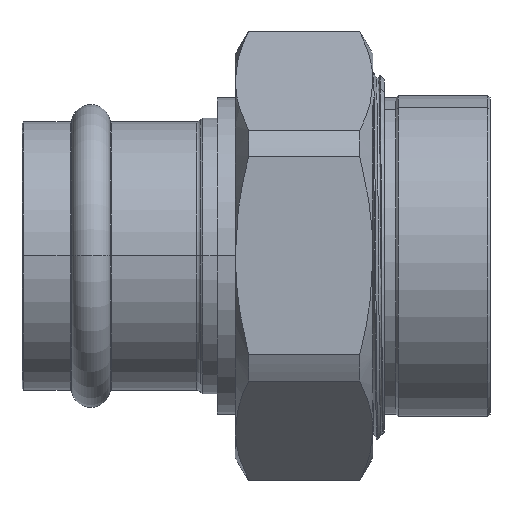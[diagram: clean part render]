
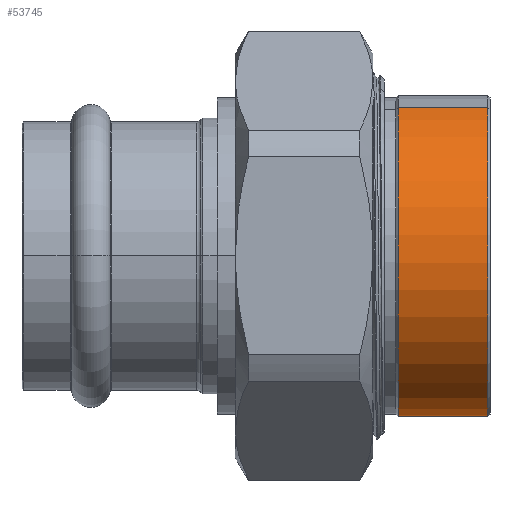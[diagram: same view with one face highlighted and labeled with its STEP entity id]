
A CAD part, top view. The second image highlights one B-rep face of the part: STEP entity #53745.
In plain terms, the highlighted cylindrical face has radius 1.379 mm (diameter 2.758 mm), a partial arc.
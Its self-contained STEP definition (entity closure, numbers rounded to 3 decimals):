
#15264 = VERTEX_POINT('',#15265);
#15265 = CARTESIAN_POINT('',(-72.789,1.275,
    -25.602));
#15279 = CONICAL_SURFACE('',#15280,2.084,0.785);
#15280 = AXIS2_PLACEMENT_3D('',#15281,#15282,#15283);
#15281 = CARTESIAN_POINT('',(-72.084,0.,-26.128));
#15282 = DIRECTION('',(1.,0.,0.));
#15283 = DIRECTION('',(0.,-0.924,-0.382));
#15292 = VERTEX_POINT('',#15293);
#15293 = CARTESIAN_POINT('',(-72.789,-1.275,
    -26.655));
#15308 = CYLINDRICAL_SURFACE('',#15309,1.379);
#15309 = AXIS2_PLACEMENT_3D('',#15310,#15311,#15312);
#15310 = CARTESIAN_POINT('',(-72.907,0.,-26.128));
#15311 = DIRECTION('',(1.,0.,0.));
#15312 = DIRECTION('',(0.,-0.924,-0.382));
#15467 = VERTEX_POINT('',#15468);
#15468 = CARTESIAN_POINT('',(-72.021,-1.275,
    -26.655));
#15482 = CONICAL_SURFACE('',#15483,1.359,0.785);
#15483 = AXIS2_PLACEMENT_3D('',#15484,#15485,#15486);
#15484 = CARTESIAN_POINT('',(-72.001,0.,-26.128));
#15485 = DIRECTION('',(-1.,0.,0.));
#15486 = DIRECTION('',(0.,0.924,0.382));
#15495 = VERTEX_POINT('',#15496);
#15496 = CARTESIAN_POINT('',(-72.021,1.275,
    -25.602));
#15984 = EDGE_CURVE('',#15264,#15495,#15985,.T.);
#15985 = SURFACE_CURVE('',#15986,(#15990,#15997),.PCURVE_S1.);
#15986 = LINE('',#15987,#15988);
#15987 = CARTESIAN_POINT('',(-72.907,1.275,
    -25.602));
#15988 = VECTOR('',#15989,1.);
#15989 = DIRECTION('',(1.,0.,0.));
#15990 = PCURVE('',#15308,#15991);
#15991 = DEFINITIONAL_REPRESENTATION('',(#15992),#15996);
#15992 = LINE('',#15993,#15994);
#15993 = CARTESIAN_POINT('',(3.142,0.));
#15994 = VECTOR('',#15995,1.);
#15995 = DIRECTION('',(0.,1.));
#15996 = ( GEOMETRIC_REPRESENTATION_CONTEXT(2) 
PARAMETRIC_REPRESENTATION_CONTEXT() REPRESENTATION_CONTEXT('2D SPACE',''
  ) );
#15997 = PCURVE('',#15998,#16003);
#15998 = CYLINDRICAL_SURFACE('',#15999,1.379);
#15999 = AXIS2_PLACEMENT_3D('',#16000,#16001,#16002);
#16000 = CARTESIAN_POINT('',(-72.907,0.,-26.128));
#16001 = DIRECTION('',(1.,0.,0.));
#16002 = DIRECTION('',(0.,-0.924,-0.382));
#16003 = DEFINITIONAL_REPRESENTATION('',(#16004),#16008);
#16004 = LINE('',#16005,#16006);
#16005 = CARTESIAN_POINT('',(3.142,0.));
#16006 = VECTOR('',#16007,1.);
#16007 = DIRECTION('',(0.,1.));
#16008 = ( GEOMETRIC_REPRESENTATION_CONTEXT(2) 
PARAMETRIC_REPRESENTATION_CONTEXT() REPRESENTATION_CONTEXT('2D SPACE',''
  ) );
#16011 = EDGE_CURVE('',#15292,#15467,#16012,.T.);
#16012 = SURFACE_CURVE('',#16013,(#16017,#16024),.PCURVE_S1.);
#16013 = LINE('',#16014,#16015);
#16014 = CARTESIAN_POINT('',(-72.907,-1.275,
    -26.655));
#16015 = VECTOR('',#16016,1.);
#16016 = DIRECTION('',(1.,0.,0.));
#16017 = PCURVE('',#15308,#16018);
#16018 = DEFINITIONAL_REPRESENTATION('',(#16019),#16023);
#16019 = LINE('',#16020,#16021);
#16020 = CARTESIAN_POINT('',(0.,0.));
#16021 = VECTOR('',#16022,1.);
#16022 = DIRECTION('',(0.,1.));
#16023 = ( GEOMETRIC_REPRESENTATION_CONTEXT(2) 
PARAMETRIC_REPRESENTATION_CONTEXT() REPRESENTATION_CONTEXT('2D SPACE',''
  ) );
#16024 = PCURVE('',#15998,#16025);
#16025 = DEFINITIONAL_REPRESENTATION('',(#16026),#16030);
#16026 = LINE('',#16027,#16028);
#16027 = CARTESIAN_POINT('',(6.283,0.));
#16028 = VECTOR('',#16029,1.);
#16029 = DIRECTION('',(0.,1.));
#16030 = ( GEOMETRIC_REPRESENTATION_CONTEXT(2) 
PARAMETRIC_REPRESENTATION_CONTEXT() REPRESENTATION_CONTEXT('2D SPACE',''
  ) );
#53745 = ADVANCED_FACE('',(#53746),#15998,.T.);
#53746 = FACE_BOUND('',#53747,.T.);
#53747 = EDGE_LOOP('',(#53748,#53749,#53771,#53772));
#53748 = ORIENTED_EDGE('',*,*,#15984,.F.);
#53749 = ORIENTED_EDGE('',*,*,#53750,.T.);
#53750 = EDGE_CURVE('',#15264,#15292,#53751,.T.);
#53751 = SURFACE_CURVE('',#53752,(#53757,#53764),.PCURVE_S1.);
#53752 = CIRCLE('',#53753,1.379);
#53753 = AXIS2_PLACEMENT_3D('',#53754,#53755,#53756);
#53754 = CARTESIAN_POINT('',(-72.789,0.,-26.128));
#53755 = DIRECTION('',(1.,0.,0.));
#53756 = DIRECTION('',(0.,-0.924,-0.382));
#53757 = PCURVE('',#15998,#53758);
#53758 = DEFINITIONAL_REPRESENTATION('',(#53759),#53763);
#53759 = LINE('',#53760,#53761);
#53760 = CARTESIAN_POINT('',(0.,0.118));
#53761 = VECTOR('',#53762,1.);
#53762 = DIRECTION('',(1.,0.));
#53763 = ( GEOMETRIC_REPRESENTATION_CONTEXT(2) 
PARAMETRIC_REPRESENTATION_CONTEXT() REPRESENTATION_CONTEXT('2D SPACE',''
  ) );
#53764 = PCURVE('',#15279,#53765);
#53765 = DEFINITIONAL_REPRESENTATION('',(#53766),#53770);
#53766 = LINE('',#53767,#53768);
#53767 = CARTESIAN_POINT('',(0.,-0.705));
#53768 = VECTOR('',#53769,1.);
#53769 = DIRECTION('',(1.,0.));
#53770 = ( GEOMETRIC_REPRESENTATION_CONTEXT(2) 
PARAMETRIC_REPRESENTATION_CONTEXT() REPRESENTATION_CONTEXT('2D SPACE',''
  ) );
#53771 = ORIENTED_EDGE('',*,*,#16011,.T.);
#53772 = ORIENTED_EDGE('',*,*,#53773,.T.);
#53773 = EDGE_CURVE('',#15467,#15495,#53774,.T.);
#53774 = SURFACE_CURVE('',#53775,(#53780,#53787),.PCURVE_S1.);
#53775 = CIRCLE('',#53776,1.379);
#53776 = AXIS2_PLACEMENT_3D('',#53777,#53778,#53779);
#53777 = CARTESIAN_POINT('',(-72.021,0.,-26.128));
#53778 = DIRECTION('',(-1.,0.,0.));
#53779 = DIRECTION('',(0.,0.924,0.382));
#53780 = PCURVE('',#15998,#53781);
#53781 = DEFINITIONAL_REPRESENTATION('',(#53782),#53786);
#53782 = LINE('',#53783,#53784);
#53783 = CARTESIAN_POINT('',(9.425,0.887));
#53784 = VECTOR('',#53785,1.);
#53785 = DIRECTION('',(-1.,0.));
#53786 = ( GEOMETRIC_REPRESENTATION_CONTEXT(2) 
PARAMETRIC_REPRESENTATION_CONTEXT() REPRESENTATION_CONTEXT('2D SPACE',''
  ) );
#53787 = PCURVE('',#15482,#53788);
#53788 = DEFINITIONAL_REPRESENTATION('',(#53789),#53793);
#53789 = LINE('',#53790,#53791);
#53790 = CARTESIAN_POINT('',(0.,0.02));
#53791 = VECTOR('',#53792,1.);
#53792 = DIRECTION('',(1.,0.));
#53793 = ( GEOMETRIC_REPRESENTATION_CONTEXT(2) 
PARAMETRIC_REPRESENTATION_CONTEXT() REPRESENTATION_CONTEXT('2D SPACE',''
  ) );
